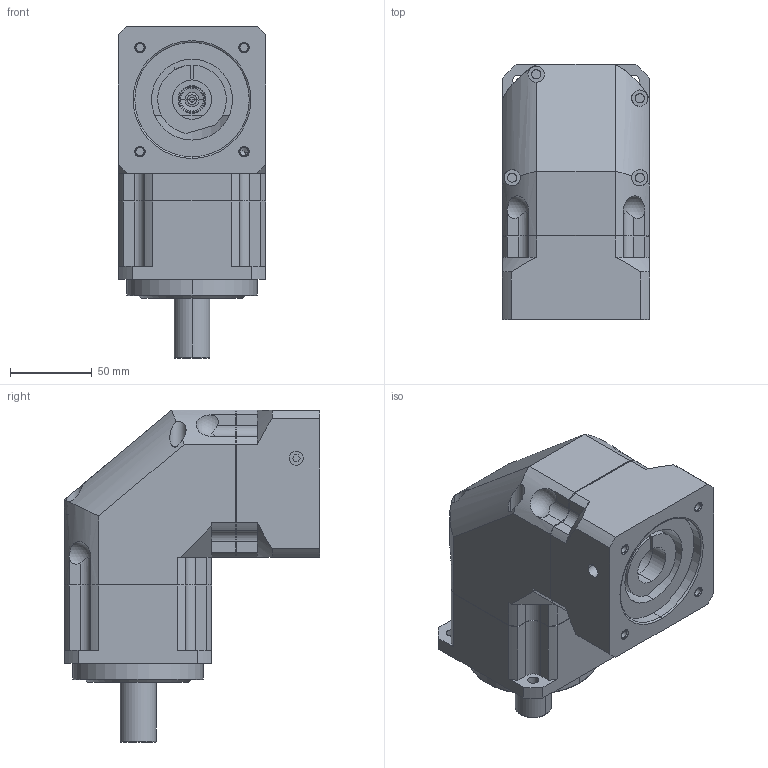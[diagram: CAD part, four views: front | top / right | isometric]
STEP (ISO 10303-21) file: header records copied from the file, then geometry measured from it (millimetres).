
FILE_DESCRIPTION((''),'2;1');
FILE_NAME('ABR0901-P0401300305_ASM','2016-04-13T',('d00435'),(''),'PRO/ENGINEER BY PARAMETRIC TECHNOLOGY CORPORATION, 2008410','PRO/ENGINEER BY PARAMETRIC TECHNOLOGY CORPORATION, 2008410','');
FILE_SCHEMA(('CONFIG_CONTROL_DESIGN'));
Length unit declared in the file: millimetre
Products named in the file (4): AB0901; PD030001; P0401300305; ABR0901-P0401300305_ASM
Assembly tree (3 placements, depth 2):
  ABR0901-P0401300305_ASM
    AB0901
    PD030001
    P0401300305
Bounding box: 90 x 156 x 203 mm (x, y, z)
Volume: 1114093.5 mm3; surface area: 164923.4 mm2
Topology: 4 solids, 15 shells, 434 faces, 1052 edges, 648 vertices
Faces by surface type: cylinder 166, plane 156, cone 88, torus 20, sphere 4
Entity records: 13191 total; most frequent: CARTESIAN_POINT 2724, DIRECTION 2333, ORIENTED_EDGE 2028, EDGE_CURVE 1038, AXIS2_PLACEMENT_3D 927, VERTEX_POINT 648, EDGE_LOOP 492, CIRCLE 480
